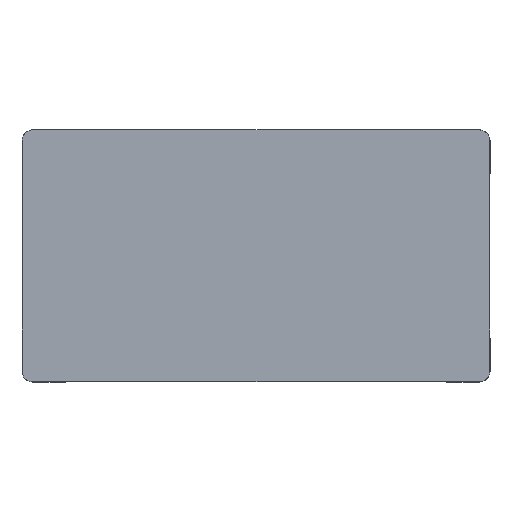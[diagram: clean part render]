
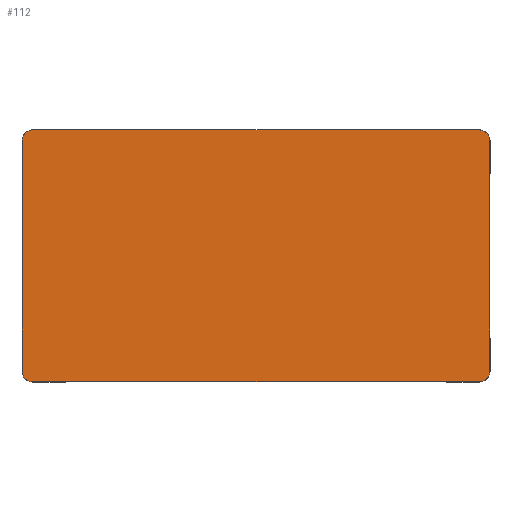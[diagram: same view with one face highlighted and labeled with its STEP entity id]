
A CAD part, top view. The second image highlights one B-rep face of the part: STEP entity #112.
In plain terms, the highlighted planar face has unit normal (0, 0, 1).
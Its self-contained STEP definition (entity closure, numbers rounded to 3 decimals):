
#112=ADVANCED_FACE($,(#342),#2814,.T.);
#342=FACE_OUTER_BOUND($,#572,.T.);
#572=EDGE_LOOP($,(#836,#837,#838,#839,#840,#841,#842,#843));
#836=ORIENTED_EDGE($,*,*,#1887,.F.);
#837=ORIENTED_EDGE($,*,*,#1878,.F.);
#838=ORIENTED_EDGE($,*,*,#1886,.F.);
#839=ORIENTED_EDGE($,*,*,#1877,.F.);
#840=ORIENTED_EDGE($,*,*,#1885,.F.);
#841=ORIENTED_EDGE($,*,*,#1876,.F.);
#842=ORIENTED_EDGE($,*,*,#1884,.F.);
#843=ORIENTED_EDGE($,*,*,#1879,.F.);
#1876=EDGE_CURVE($,#2405,#2404,#3070,.T.);
#1877=EDGE_CURVE($,#2407,#2406,#3071,.T.);
#1878=EDGE_CURVE($,#2409,#2408,#3072,.T.);
#1879=EDGE_CURVE($,#2411,#2410,#3073,.T.);
#1884=EDGE_CURVE($,#2410,#2405,#2918,.T.);
#1885=EDGE_CURVE($,#2404,#2407,#2919,.T.);
#1886=EDGE_CURVE($,#2406,#2409,#2920,.T.);
#1887=EDGE_CURVE($,#2408,#2411,#2921,.T.);
#2404=VERTEX_POINT($,#3870);
#2405=VERTEX_POINT($,#3871);
#2406=VERTEX_POINT($,#3872);
#2407=VERTEX_POINT($,#3873);
#2408=VERTEX_POINT($,#3874);
#2409=VERTEX_POINT($,#3875);
#2410=VERTEX_POINT($,#3876);
#2411=VERTEX_POINT($,#3877);
#2814=PLANE($,#3528);
#2918=(
BOUNDED_CURVE()
B_SPLINE_CURVE(2,(#3764,#3765,#3766),.UNSPECIFIED.,.F.,.F.)
B_SPLINE_CURVE_WITH_KNOTS((3,3),(-1.,0.),.UNSPECIFIED.)
CURVE()
GEOMETRIC_REPRESENTATION_ITEM()
RATIONAL_B_SPLINE_CURVE((1.,0.707,1.))
REPRESENTATION_ITEM($)
);
#2919=(
BOUNDED_CURVE()
B_SPLINE_CURVE(2,(#3767,#3768,#3769),.UNSPECIFIED.,.F.,.F.)
B_SPLINE_CURVE_WITH_KNOTS((3,3),(0.,1.),.UNSPECIFIED.)
CURVE()
GEOMETRIC_REPRESENTATION_ITEM()
RATIONAL_B_SPLINE_CURVE((1.,0.707,1.))
REPRESENTATION_ITEM($)
);
#2920=(
BOUNDED_CURVE()
B_SPLINE_CURVE(2,(#3770,#3771,#3772),.UNSPECIFIED.,.F.,.F.)
B_SPLINE_CURVE_WITH_KNOTS((3,3),(0.,1.),.UNSPECIFIED.)
CURVE()
GEOMETRIC_REPRESENTATION_ITEM()
RATIONAL_B_SPLINE_CURVE((1.,0.707,1.))
REPRESENTATION_ITEM($)
);
#2921=(
BOUNDED_CURVE()
B_SPLINE_CURVE(2,(#3773,#3774,#3775),.UNSPECIFIED.,.F.,.F.)
B_SPLINE_CURVE_WITH_KNOTS((3,3),(0.,1.),.UNSPECIFIED.)
CURVE()
GEOMETRIC_REPRESENTATION_ITEM()
RATIONAL_B_SPLINE_CURVE((1.,0.707,1.))
REPRESENTATION_ITEM($)
);
#3070=B_SPLINE_CURVE_WITH_KNOTS($,1,(#3744,#3745),.UNSPECIFIED.,.F.,.F.,
(2,2),(30.,670.),.UNSPECIFIED.);
#3071=B_SPLINE_CURVE_WITH_KNOTS($,1,(#3746,#3747),.UNSPECIFIED.,.F.,.F.,
(2,2),(30.,1270.),.UNSPECIFIED.);
#3072=B_SPLINE_CURVE_WITH_KNOTS($,1,(#3748,#3749),.UNSPECIFIED.,.F.,.F.,
(2,2),(30.,670.),.UNSPECIFIED.);
#3073=B_SPLINE_CURVE_WITH_KNOTS($,1,(#3750,#3751),.UNSPECIFIED.,.F.,.F.,
(2,2),(30.,1270.),.UNSPECIFIED.);
#3528=AXIS2_PLACEMENT_3D($,#3810,#3633,$);
#3633=DIRECTION($,(0.,0.,1.));
#3744=CARTESIAN_POINT($,(0.,30.,404.));
#3745=CARTESIAN_POINT($,(0.,670.,404.));
#3746=CARTESIAN_POINT($,(30.,700.,404.));
#3747=CARTESIAN_POINT($,(1270.,700.,404.));
#3748=CARTESIAN_POINT($,(1300.,670.,404.));
#3749=CARTESIAN_POINT($,(1300.,30.,404.));
#3750=CARTESIAN_POINT($,(1270.,0.,404.));
#3751=CARTESIAN_POINT($,(30.,0.,404.));
#3764=CARTESIAN_POINT($,(30.,0.,404.));
#3765=CARTESIAN_POINT($,(0.,0.,404.));
#3766=CARTESIAN_POINT($,(0.,30.,404.));
#3767=CARTESIAN_POINT($,(0.,670.,404.));
#3768=CARTESIAN_POINT($,(0.,700.,404.));
#3769=CARTESIAN_POINT($,(30.,700.,404.));
#3770=CARTESIAN_POINT($,(1270.,700.,404.));
#3771=CARTESIAN_POINT($,(1300.,700.,404.));
#3772=CARTESIAN_POINT($,(1300.,670.,404.));
#3773=CARTESIAN_POINT($,(1300.,30.,404.));
#3774=CARTESIAN_POINT($,(1300.,0.,404.));
#3775=CARTESIAN_POINT($,(1270.,0.,404.));
#3810=CARTESIAN_POINT($,(0.,0.,404.));
#3870=CARTESIAN_POINT($,(0.,670.,404.));
#3871=CARTESIAN_POINT($,(0.,30.,404.));
#3872=CARTESIAN_POINT($,(1270.,700.,404.));
#3873=CARTESIAN_POINT($,(30.,700.,404.));
#3874=CARTESIAN_POINT($,(1300.,30.,404.));
#3875=CARTESIAN_POINT($,(1300.,670.,404.));
#3876=CARTESIAN_POINT($,(30.,0.,404.));
#3877=CARTESIAN_POINT($,(1270.,0.,404.));
